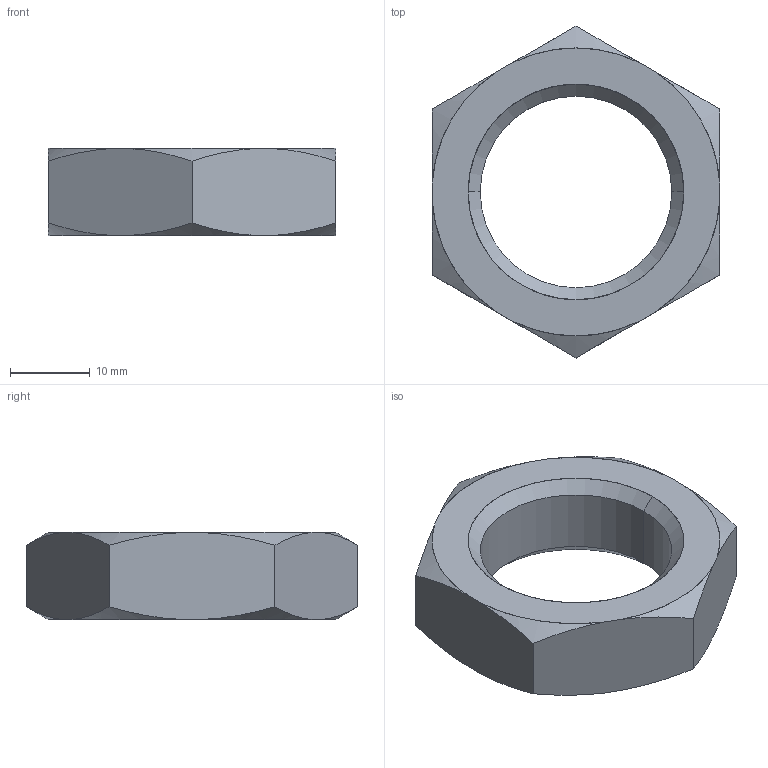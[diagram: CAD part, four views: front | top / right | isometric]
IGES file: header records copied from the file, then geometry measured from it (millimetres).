
Start section: SolidWorks IGES file using analytic representation for surfaces
Global section: file name: C:\Users\liam_\OneDrive\Desktop\Work\Mat Davis Pending 20181125\automotion\P SERIES\P0307.ZP_v2\P0307.ZP_v2_20181215_IGES\P0307.240-150-ZP.igs; native system: SolidWorks 2017; preprocessor: SolidWorks 2017; author: liam_; date: 181215.155110; units: millimetre
Bounding box: 36 x 41.57 x 10.9 mm (x, y, z)
Surface area: 3292.7 mm2 (no closed solid volume)
Topology: 0 solids, 0 shells, 26 faces, 424 edges, 424 vertices
Faces by surface type: revolution 18, bspline 8
